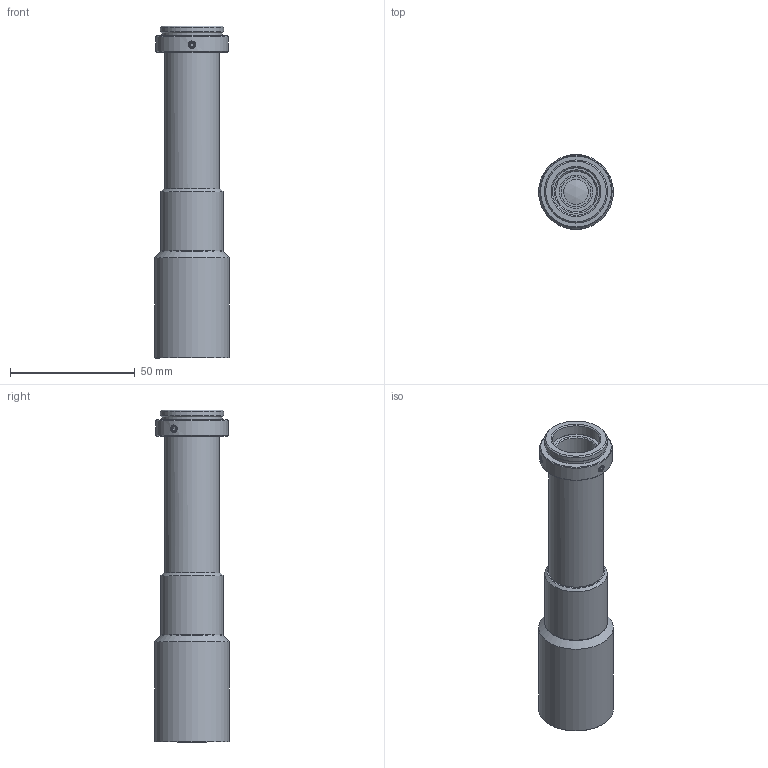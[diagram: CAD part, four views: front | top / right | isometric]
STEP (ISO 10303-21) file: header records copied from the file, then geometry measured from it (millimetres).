
FILE_DESCRIPTION(('STEP AP214'),'1');
FILE_NAME('RTK-1.5-M110.stp','2026-08-03T02:33:20',(' '),(' '),'Spatial InterOp 3D',' ',' ');
FILE_SCHEMA(('AUTOMOTIVE_DESIGN { 1 0 10303 214 1 1 1 1 }'));
Length unit declared in the file: metre
Products named in the file (2): RTK-1.5-M110; Component1
Assembly tree (1 placements, depth 2):
  RTK-1.5-M110
    Component1
Bounding box: 30 x 30 x 133.2 mm (x, y, z)
Volume: 34403.8 mm3; surface area: 22534.2 mm2
Topology: 1 solids, 7 shells, 150 faces, 325 edges, 214 vertices
Faces by surface type: plane 58, cone 55, cylinder 32, bspline 3, sphere 2
Full cylindrical faces by diameter (mm): 10 x1, 12 x2, 13.4 x1, 14.2 x1, 16.4 x1, 16.5 x1, 17.2 x1, 17.4 x2, 18.2 x1, 19 x2, 19.02 x1, 20.2 x1, 20.4 x1, 21.2 x1, 22 x5, 23 x1, 24.12 x1, 24.5 x2, 25 x1, 25.32 x1, 27 x1, 27.8 x1, 29 x1, 30 x1
Entity records: 5298 total; most frequent: CARTESIAN_POINT 1176, DIRECTION 608, ORIENTED_EDGE 462, AXIS2_PLACEMENT_3D 268, EDGE_LOOP 254, EDGE_CURVE 231, VERTEX_POINT 189, FACE_OUTER_BOUND 184
